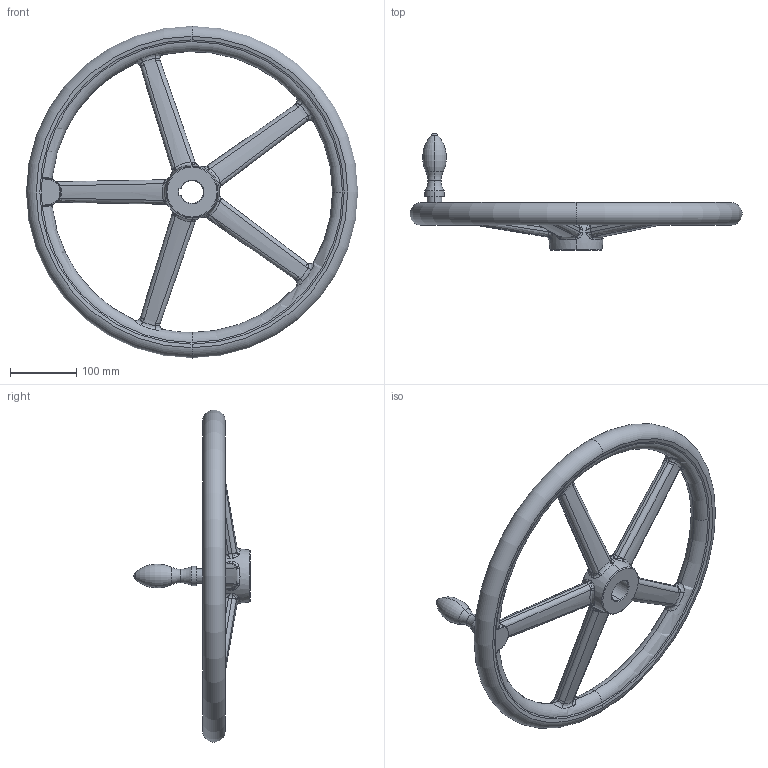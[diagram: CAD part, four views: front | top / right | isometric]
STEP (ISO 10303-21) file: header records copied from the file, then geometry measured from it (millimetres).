
FILE_DESCRIPTION (( 'STEP AP203' ), '1' );
FILE_NAME ('din950_d3_500x34.step', '2010-03-23T10:11:52', ( '_' ), ( '_' ), 'SwSTEP 2.0', 'SolidWorks 2010', '' );
FILE_SCHEMA (( 'CONFIG_CONTROL_DESIGN' ));
Length unit declared in the file: millimetre
Products named in the file (1): din950_d3_500x34
Bounding box: 499.87 x 176 x 499.87 mm (x, y, z)
Volume: 2284117.2 mm3; surface area: 274921.4 mm2
Topology: 1 solids, 1 shells, 292 faces, 726 edges, 385 vertices
Faces by surface type: bspline 218, torus 28, plane 18, cone 18, cylinder 8, sphere 2
Entity records: 64364 total; most frequent: CARTESIAN_POINT 58926, ORIENTED_EDGE 1364, DIRECTION 700, EDGE_CURVE 682, B_SPLINE_CURVE_WITH_KNOTS 391, VERTEX_POINT 385, AXIS2_PLACEMENT_3D 334, EDGE_LOOP 297
